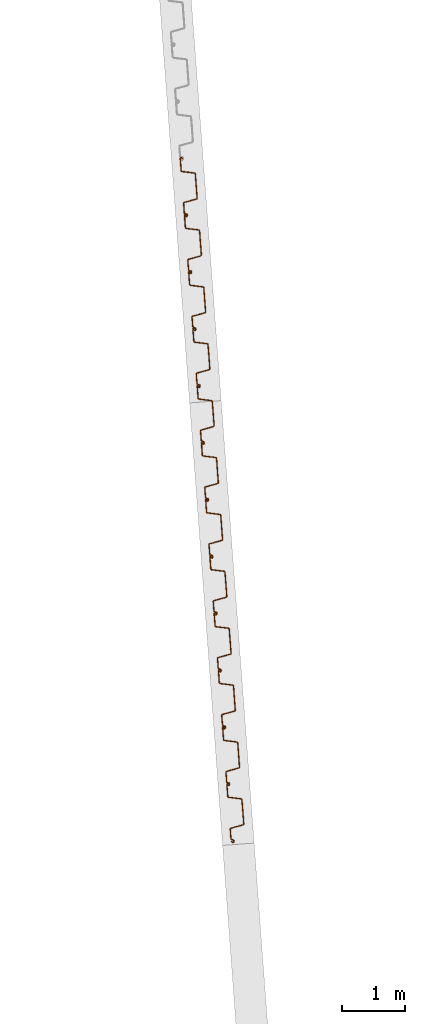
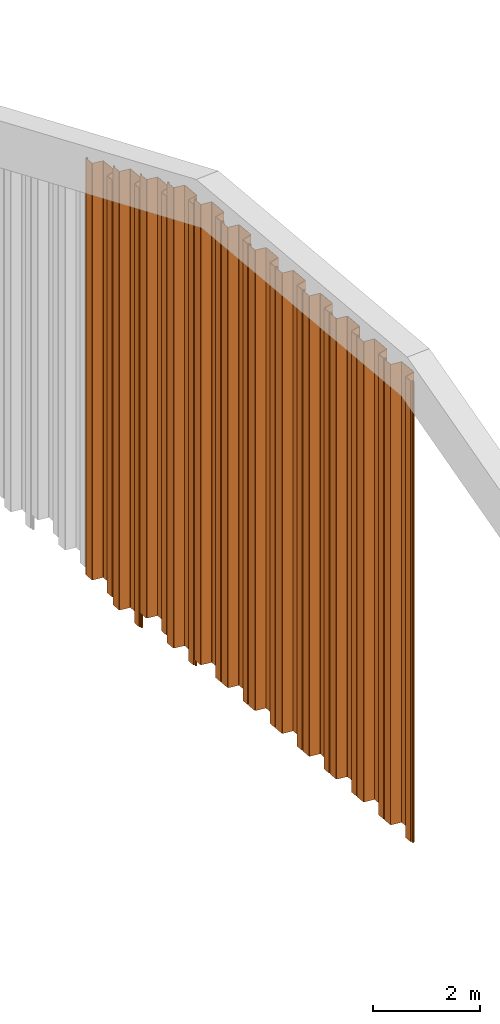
# One storey, part 3 of 15: 12 proxies.
"""IFC2X3 building model written with IfcOpenShell, lengths in millimetres."""

from ifc_helpers import new_model, entity, si_unit, converted_unit, derived_unit, direction, frame, frame_2d, origin, place, context, subcontext, project, spatial, polyline, circle_curve, parameter, trimmed, segment, composite_curve, outline, extrude, source, transform, mapped, material, type_object, type_shapes, element, save


model = new_model("IFC2X3")

# Units and contexts
model_context = context("Model", 3, precision=0.01, world=origin(), true_north=direction((6.12303176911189e-17, 1.0)))
body_context = subcontext(model_context, "Body", "Model", "MODEL_VIEW")
ifc_project = project(units=[si_unit("LENGTHUNIT", "METRE", prefix="MILLI"), si_unit("AREAUNIT", "SQUARE_METRE"), si_unit("VOLUMEUNIT", "CUBIC_METRE"), converted_unit("PLANEANGLEUNIT", "DEGREE", entity("IfcRatioMeasure", 0.0174532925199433), si_unit("PLANEANGLEUNIT", "RADIAN"), dimensions=[0, 0, 0, 0, 0, 0, 0]), si_unit("MASSUNIT", "GRAM", prefix="KILO"), derived_unit("MASSDENSITYUNIT", [(si_unit("MASSUNIT", "GRAM", prefix="KILO"), 1), (si_unit("LENGTHUNIT", "METRE"), -3)]), derived_unit("MOMENTOFINERTIAUNIT", [(si_unit("LENGTHUNIT", "METRE"), 4)]), si_unit("TIMEUNIT", "SECOND"), si_unit("FREQUENCYUNIT", "HERTZ"), si_unit("THERMODYNAMICTEMPERATUREUNIT", "DEGREE_CELSIUS"), derived_unit("THERMALTRANSMITTANCEUNIT", [(si_unit("MASSUNIT", "GRAM", prefix="KILO"), 1), (si_unit("THERMODYNAMICTEMPERATUREUNIT", "KELVIN"), -1), (si_unit("TIMEUNIT", "SECOND"), -3)]), derived_unit("VOLUMETRICFLOWRATEUNIT", [(si_unit("LENGTHUNIT", "METRE"), 3), (si_unit("TIMEUNIT", "SECOND"), -1)]), si_unit("ELECTRICCURRENTUNIT", "AMPERE"), si_unit("ELECTRICVOLTAGEUNIT", "VOLT"), si_unit("POWERUNIT", "WATT"), si_unit("FORCEUNIT", "NEWTON", prefix="KILO"), si_unit("ILLUMINANCEUNIT", "LUX"), si_unit("LUMINOUSFLUXUNIT", "LUMEN"), si_unit("LUMINOUSINTENSITYUNIT", "CANDELA"), derived_unit("USERDEFINED", [(si_unit("MASSUNIT", "GRAM", prefix="KILO"), -1), (si_unit("LENGTHUNIT", "METRE"), -2), (si_unit("TIMEUNIT", "SECOND"), 3), (si_unit("LUMINOUSFLUXUNIT", "LUMEN"), 1)]), derived_unit("LINEARVELOCITYUNIT", [(si_unit("LENGTHUNIT", "METRE"), 1), (si_unit("TIMEUNIT", "SECOND"), -1)]), si_unit("PRESSUREUNIT", "PASCAL"), derived_unit("USERDEFINED", [(si_unit("LENGTHUNIT", "METRE"), -2), (si_unit("MASSUNIT", "GRAM", prefix="KILO"), 1), (si_unit("TIMEUNIT", "SECOND"), -2)]), derived_unit("LINEARFORCEUNIT", [(si_unit("MASSUNIT", "GRAM", prefix="KILO"), 1), (si_unit("LENGTHUNIT", "METRE"), 1), (si_unit("TIMEUNIT", "SECOND"), -2), (si_unit("LENGTHUNIT", "METRE"), -1)]), derived_unit("PLANARFORCEUNIT", [(si_unit("MASSUNIT", "GRAM", prefix="KILO"), 1), (si_unit("LENGTHUNIT", "METRE"), 1), (si_unit("TIMEUNIT", "SECOND"), -2), (si_unit("LENGTHUNIT", "METRE"), -2)])], contexts=[model_context])

# Site, building, storey
site_placement = place(None, origin())
site = spatial("IfcSite", under=ifc_project, at=site_placement, Name="Default", CompositionType="ELEMENT")
building_placement = place(site_placement, origin())
building = spatial("IfcBuilding", under=site, at=building_placement, CompositionType="ELEMENT")
storey_placement = place(building_placement, frame((0.0, 0.0, 9500.0)))
storey = spatial("IfcBuildingStorey", under=building, at=storey_placement, Name="AP+9.500", CompositionType="ELEMENT", Elevation=9500.0)

# Proxies
ifc_material = material(Name="<Unnamed>")
building_element_proxy_type_1 = type_object("IfcBuildingElementProxyType", Name="鋼矢板10H型:鋼矢板10H型", PredefinedType="NOTDEFINED", material=ifc_material)
shared_shape_1 = source(origin(), body_context, "Body", "SweptSolid", [
    extrude(outline(composite_curve([segment(trimmed(circle_curve(frame_2d((85.3662976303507, 306.644432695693), x_axis=(0.422618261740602, 0.906307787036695)), 13.885714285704), [parameter(24.9999999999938)], [parameter(90.0000000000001)], True, "PARAMETER"), True, "CONTINUOUS"), segment(polyline([(72.7815666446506, 312.512789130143), (9.8129512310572, 177.476157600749)]), True, "CONTINUOUS"), segment(trimmed(circle_curve(frame_2d((29.3891994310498, 168.347603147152), x_axis=(0.422618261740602, 0.906307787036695)), 21.6), [parameter(90.0000000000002)], [parameter(168.69006752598)], True, "PARAMETER"), True, "CONTINUOUS"), segment(polyline([(16.598697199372, 150.941769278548), (175.329723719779, 34.2998683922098)]), True, "CONTINUOUS"), segment(trimmed(circle_curve(frame_2d((168.93447260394, 25.596951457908), x_axis=(0.422618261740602, 0.906307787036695)), 10.7999999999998), [parameter(270.0)], [parameter(348.690067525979)], True, "PARAMETER"), False, "CONTINUOUS"), segment(polyline([(178.722596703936, 21.0326742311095), (18.2974003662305, -323.000269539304)]), True, "CONTINUOUS"), segment(trimmed(circle_curve(frame_2d((8.50927626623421, -318.435992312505), x_axis=(0.422618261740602, 0.906307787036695)), 10.8), [parameter(191.30993247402)], [parameter(269.999999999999)], True, "PARAMETER"), False, "CONTINUOUS"), segment(polyline([(5.95324328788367, -328.929166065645), (-185.429973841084, -282.310113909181)]), True, "CONTINUOUS"), segment(trimmed(circle_curve(frame_2d((-190.542039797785, -303.296461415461), x_axis=(0.422618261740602, 0.906307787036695)), 21.6000000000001), [parameter(11.3099324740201)], [parameter(90.0000000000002)], True, "PARAMETER"), True, "CONTINUOUS"), segment(polyline([(-210.118287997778, -294.167906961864), (-290.330886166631, -466.184378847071)]), True, "CONTINUOUS"), segment(trimmed(circle_curve(frame_2d((-270.754637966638, -475.312933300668), x_axis=(0.422618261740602, 0.906307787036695)), 21.6), [parameter(90.0000000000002)], [parameter(269.999999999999)], True, "PARAMETER"), True, "CONTINUOUS"), segment(polyline([(-251.178389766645, -484.441487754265), (-249.065298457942, -479.909948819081)]), True, "CONTINUOUS"), segment(polyline([(-249.065298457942, -479.909948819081), (-258.853422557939, -475.345671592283)]), True, "CONTINUOUS"), segment(polyline([(-258.853422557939, -475.345671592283), (-260.966513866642, -479.877210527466)]), True, "CONTINUOUS"), segment(trimmed(circle_curve(frame_2d((-270.754637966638, -475.312933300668), x_axis=(0.422618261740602, 0.906307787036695)), 10.8), [parameter(90.0000000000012)], [parameter(270.0)], True, "PARAMETER"), False, "CONTINUOUS"), segment(polyline([(-280.542762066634, -470.748656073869), (-200.330163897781, -298.732184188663)]), True, "CONTINUOUS"), segment(trimmed(circle_curve(frame_2d((-190.542039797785, -303.296461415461), x_axis=(0.422618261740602, 0.906307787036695)), 10.8), [parameter(11.3099324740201)], [parameter(89.9999999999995)], True, "PARAMETER"), False, "CONTINUOUS"), segment(polyline([(-187.986006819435, -292.803287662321), (3.39721030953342, -339.422339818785)]), True, "CONTINUOUS"), segment(trimmed(circle_curve(frame_2d((8.50927626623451, -318.435992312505), x_axis=(0.422618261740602, 0.906307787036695)), 21.6), [parameter(191.30993247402)], [parameter(270.0)], True, "PARAMETER"), True, "CONTINUOUS"), segment(polyline([(28.0855244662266, -327.564546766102), (188.510720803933, 16.4683970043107)]), True, "CONTINUOUS"), segment(trimmed(circle_curve(frame_2d((168.93447260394, 25.5969514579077), x_axis=(0.422618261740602, 0.906307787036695)), 21.6), [parameter(270.0)], [parameter(348.69006752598)], True, "PARAMETER"), True, "CONTINUOUS"), segment(polyline([(181.724974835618, 43.0027853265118), (22.9939483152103, 159.644686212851)]), True, "CONTINUOUS"), segment(trimmed(circle_curve(frame_2d((29.3891994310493, 168.347603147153), x_axis=(0.422618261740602, 0.906307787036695)), 10.7999999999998), [parameter(89.9999999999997)], [parameter(168.690067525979)], True, "PARAMETER"), False, "CONTINUOUS"), segment(polyline([(19.6010753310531, 172.911880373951), (82.5696907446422, 307.948511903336)]), True, "CONTINUOUS"), segment(trimmed(circle_curve(frame_2d((85.3662976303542, 306.64443269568), x_axis=(0.422618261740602, 0.906307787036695)), 3.08571428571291), [parameter(25.0000000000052)], [parameter(90.0000000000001)], True, "PARAMETER"), False, "CONTINUOUS"), segment(polyline([(85.3662976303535, 309.730146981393), (122.220231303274, 309.730146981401)]), True, "CONTINUOUS"), segment(trimmed(circle_curve(frame_2d((122.220231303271, 323.615861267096), x_axis=(0.422618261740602, 0.906307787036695)), 13.8857142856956), [parameter(205.000000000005)], [parameter(270.0)], True, "PARAMETER"), True, "CONTINUOUS"), segment(polyline([(134.804962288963, 317.747504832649), (141.079261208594, 331.202782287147)]), True, "CONTINUOUS"), segment(trimmed(circle_curve(frame_2d((121.503013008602, 340.331336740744), x_axis=(0.422618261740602, 0.906307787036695)), 21.6), [parameter(270.0)], [parameter(90.0000000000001)], True, "PARAMETER"), True, "CONTINUOUS"), segment(polyline([(101.926764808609, 349.459891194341), (99.8136734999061, 344.928352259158)]), True, "CONTINUOUS"), segment(polyline([(99.8136734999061, 344.928352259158), (109.601797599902, 340.364075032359)]), True, "CONTINUOUS"), segment(polyline([(109.601797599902, 340.364075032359), (111.714888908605, 344.895613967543)]), True, "CONTINUOUS"), segment(trimmed(circle_curve(frame_2d((121.503013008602, 340.331336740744), x_axis=(0.422618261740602, 0.906307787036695)), 10.8), [parameter(270.0)], [parameter(89.9999999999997)], True, "PARAMETER"), False, "CONTINUOUS"), segment(polyline([(131.291137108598, 335.767059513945), (125.01683818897, 322.311782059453)]), True, "CONTINUOUS"), segment(trimmed(circle_curve(frame_2d((122.220231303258, 323.615861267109), x_axis=(0.422618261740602, 0.906307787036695)), 3.08571428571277), [parameter(204.999999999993)], [parameter(270.0)], True, "PARAMETER"), False, "CONTINUOUS"), segment(polyline([(122.220231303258, 320.530146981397), (85.3662976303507, 320.530146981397)]), True, "CONTINUOUS")], self_intersect=False)), frame((95.205667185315, -48.8888888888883, -9500.0), z_axis=(0.0, 0.0, -1.0), x_axis=(0.4226182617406, 0.906307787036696, 0.0)), (0.0, 0.0, -1.0), 9500.0),
])
type_shapes(building_element_proxy_type_1, [shared_shape_1])
proxy_placement = place(storey_placement, frame((-90463.7844282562, 7628.71299689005, 5515.47006997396), z_axis=(0.0, 0.0, 1.0), x_axis=(0.0743258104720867, -0.997234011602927, 0.0)))
element("IfcBuildingElementProxy", 1, at=proxy_placement, inside=storey, type_object=building_element_proxy_type_1, material=ifc_material, Name="鋼矢板10H型:鋼矢板10H型", ObjectType="鋼矢板10H型:鋼矢板10H型", context=body_context, shape_type="MappedRepresentation", body=[
    mapped(shared_shape_1, transform((0.0, 0.0, 0.0), scale=1.0)),
])
building_element_proxy_type_2 = type_object("IfcBuildingElementProxyType", Name="鋼矢板10H型:鋼矢板10H型", PredefinedType="NOTDEFINED", material=ifc_material)
shared_shape_2 = source(origin(), body_context, "Body", "SweptSolid", [
    extrude(outline(composite_curve([segment(trimmed(circle_curve(frame_2d((85.3662976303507, 306.644432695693), x_axis=(0.422618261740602, 0.906307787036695)), 13.885714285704), [parameter(24.9999999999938)], [parameter(90.0000000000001)], True, "PARAMETER"), True, "CONTINUOUS"), segment(polyline([(72.7815666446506, 312.512789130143), (9.8129512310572, 177.476157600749)]), True, "CONTINUOUS"), segment(trimmed(circle_curve(frame_2d((29.3891994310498, 168.347603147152), x_axis=(0.422618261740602, 0.906307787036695)), 21.6), [parameter(90.0000000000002)], [parameter(168.69006752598)], True, "PARAMETER"), True, "CONTINUOUS"), segment(polyline([(16.598697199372, 150.941769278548), (175.329723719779, 34.2998683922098)]), True, "CONTINUOUS"), segment(trimmed(circle_curve(frame_2d((168.93447260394, 25.596951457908), x_axis=(0.422618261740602, 0.906307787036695)), 10.7999999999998), [parameter(270.0)], [parameter(348.690067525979)], True, "PARAMETER"), False, "CONTINUOUS"), segment(polyline([(178.722596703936, 21.0326742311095), (18.2974003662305, -323.000269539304)]), True, "CONTINUOUS"), segment(trimmed(circle_curve(frame_2d((8.50927626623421, -318.435992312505), x_axis=(0.422618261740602, 0.906307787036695)), 10.8), [parameter(191.30993247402)], [parameter(269.999999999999)], True, "PARAMETER"), False, "CONTINUOUS"), segment(polyline([(5.95324328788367, -328.929166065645), (-185.429973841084, -282.310113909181)]), True, "CONTINUOUS"), segment(trimmed(circle_curve(frame_2d((-190.542039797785, -303.296461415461), x_axis=(0.422618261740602, 0.906307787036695)), 21.6000000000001), [parameter(11.3099324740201)], [parameter(90.0000000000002)], True, "PARAMETER"), True, "CONTINUOUS"), segment(polyline([(-210.118287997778, -294.167906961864), (-290.330886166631, -466.184378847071)]), True, "CONTINUOUS"), segment(trimmed(circle_curve(frame_2d((-270.754637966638, -475.312933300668), x_axis=(0.422618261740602, 0.906307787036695)), 21.6), [parameter(90.0000000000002)], [parameter(269.999999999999)], True, "PARAMETER"), True, "CONTINUOUS"), segment(polyline([(-251.178389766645, -484.441487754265), (-249.065298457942, -479.909948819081)]), True, "CONTINUOUS"), segment(polyline([(-249.065298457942, -479.909948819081), (-258.853422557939, -475.345671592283)]), True, "CONTINUOUS"), segment(polyline([(-258.853422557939, -475.345671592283), (-260.966513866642, -479.877210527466)]), True, "CONTINUOUS"), segment(trimmed(circle_curve(frame_2d((-270.754637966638, -475.312933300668), x_axis=(0.422618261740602, 0.906307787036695)), 10.8), [parameter(90.0000000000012)], [parameter(270.0)], True, "PARAMETER"), False, "CONTINUOUS"), segment(polyline([(-280.542762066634, -470.748656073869), (-200.330163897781, -298.732184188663)]), True, "CONTINUOUS"), segment(trimmed(circle_curve(frame_2d((-190.542039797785, -303.296461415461), x_axis=(0.422618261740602, 0.906307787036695)), 10.8), [parameter(11.3099324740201)], [parameter(89.9999999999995)], True, "PARAMETER"), False, "CONTINUOUS"), segment(polyline([(-187.986006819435, -292.803287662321), (3.39721030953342, -339.422339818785)]), True, "CONTINUOUS"), segment(trimmed(circle_curve(frame_2d((8.50927626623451, -318.435992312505), x_axis=(0.422618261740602, 0.906307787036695)), 21.6), [parameter(191.30993247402)], [parameter(270.0)], True, "PARAMETER"), True, "CONTINUOUS"), segment(polyline([(28.0855244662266, -327.564546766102), (188.510720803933, 16.4683970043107)]), True, "CONTINUOUS"), segment(trimmed(circle_curve(frame_2d((168.93447260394, 25.5969514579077), x_axis=(0.422618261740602, 0.906307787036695)), 21.6), [parameter(270.0)], [parameter(348.69006752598)], True, "PARAMETER"), True, "CONTINUOUS"), segment(polyline([(181.724974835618, 43.0027853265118), (22.9939483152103, 159.644686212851)]), True, "CONTINUOUS"), segment(trimmed(circle_curve(frame_2d((29.3891994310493, 168.347603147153), x_axis=(0.422618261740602, 0.906307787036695)), 10.7999999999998), [parameter(89.9999999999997)], [parameter(168.690067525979)], True, "PARAMETER"), False, "CONTINUOUS"), segment(polyline([(19.6010753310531, 172.911880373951), (82.5696907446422, 307.948511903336)]), True, "CONTINUOUS"), segment(trimmed(circle_curve(frame_2d((85.3662976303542, 306.64443269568), x_axis=(0.422618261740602, 0.906307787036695)), 3.08571428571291), [parameter(25.0000000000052)], [parameter(90.0000000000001)], True, "PARAMETER"), False, "CONTINUOUS"), segment(polyline([(85.3662976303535, 309.730146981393), (122.220231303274, 309.730146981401)]), True, "CONTINUOUS"), segment(trimmed(circle_curve(frame_2d((122.220231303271, 323.615861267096), x_axis=(0.422618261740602, 0.906307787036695)), 13.8857142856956), [parameter(205.000000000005)], [parameter(270.0)], True, "PARAMETER"), True, "CONTINUOUS"), segment(polyline([(134.804962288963, 317.747504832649), (141.079261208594, 331.202782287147)]), True, "CONTINUOUS"), segment(trimmed(circle_curve(frame_2d((121.503013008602, 340.331336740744), x_axis=(0.422618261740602, 0.906307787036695)), 21.6), [parameter(270.0)], [parameter(90.0000000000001)], True, "PARAMETER"), True, "CONTINUOUS"), segment(polyline([(101.926764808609, 349.459891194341), (99.8136734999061, 344.928352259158)]), True, "CONTINUOUS"), segment(polyline([(99.8136734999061, 344.928352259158), (109.601797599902, 340.364075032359)]), True, "CONTINUOUS"), segment(polyline([(109.601797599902, 340.364075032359), (111.714888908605, 344.895613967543)]), True, "CONTINUOUS"), segment(trimmed(circle_curve(frame_2d((121.503013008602, 340.331336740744), x_axis=(0.422618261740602, 0.906307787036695)), 10.8), [parameter(270.0)], [parameter(89.9999999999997)], True, "PARAMETER"), False, "CONTINUOUS"), segment(polyline([(131.291137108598, 335.767059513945), (125.01683818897, 322.311782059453)]), True, "CONTINUOUS"), segment(trimmed(circle_curve(frame_2d((122.220231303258, 323.615861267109), x_axis=(0.422618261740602, 0.906307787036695)), 3.08571428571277), [parameter(204.999999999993)], [parameter(270.0)], True, "PARAMETER"), False, "CONTINUOUS"), segment(polyline([(122.220231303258, 320.530146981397), (85.3662976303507, 320.530146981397)]), True, "CONTINUOUS")], self_intersect=False)), frame((95.205667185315, -48.8888888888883, -10000.0), z_axis=(0.0, 0.0, -1.0), x_axis=(0.4226182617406, 0.906307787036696, 0.0)), (0.0, 0.0, -1.0), 10000.0),
])
type_shapes(building_element_proxy_type_2, [shared_shape_2])
for number, where, z_axis, x_axis in (
    (2, (-90396.8911988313, 6731.20238644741, 5851.61409448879), (0.0, 0.0, 1.0), (0.0743258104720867, -0.997234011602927, 0.0)),
    (3, (-90329.9979694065, 5833.69177600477, 6187.75811900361), (0.0, 0.0, 1.0), (0.0743258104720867, -0.997234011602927, 0.0)),
):
    element("IfcBuildingElementProxy", number, at=place(storey_placement, frame(where, z_axis=z_axis, x_axis=x_axis)), inside=storey, type_object=building_element_proxy_type_2, material=ifc_material, Name="鋼矢板10H型:鋼矢板10H型", ObjectType="鋼矢板10H型:鋼矢板10H型", context=body_context, shape_type="MappedRepresentation", body=[
        mapped(shared_shape_2, transform((0.0, 0.0, 0.0), scale=1.0)),
    ])
building_element_proxy_type_3 = type_object("IfcBuildingElementProxyType", Name="鋼矢板10H型:鋼矢板10H型", PredefinedType="NOTDEFINED", material=ifc_material)
shared_shape_3 = source(origin(), body_context, "Body", "SweptSolid", [
    extrude(outline(composite_curve([segment(trimmed(circle_curve(frame_2d((85.3662976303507, 306.644432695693), x_axis=(0.422618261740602, 0.906307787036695)), 13.885714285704), [parameter(24.9999999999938)], [parameter(90.0000000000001)], True, "PARAMETER"), True, "CONTINUOUS"), segment(polyline([(72.7815666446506, 312.512789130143), (9.8129512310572, 177.476157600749)]), True, "CONTINUOUS"), segment(trimmed(circle_curve(frame_2d((29.3891994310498, 168.347603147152), x_axis=(0.422618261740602, 0.906307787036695)), 21.6), [parameter(90.0000000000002)], [parameter(168.69006752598)], True, "PARAMETER"), True, "CONTINUOUS"), segment(polyline([(16.598697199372, 150.941769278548), (175.329723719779, 34.2998683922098)]), True, "CONTINUOUS"), segment(trimmed(circle_curve(frame_2d((168.93447260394, 25.596951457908), x_axis=(0.422618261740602, 0.906307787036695)), 10.7999999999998), [parameter(270.0)], [parameter(348.690067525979)], True, "PARAMETER"), False, "CONTINUOUS"), segment(polyline([(178.722596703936, 21.0326742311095), (18.2974003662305, -323.000269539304)]), True, "CONTINUOUS"), segment(trimmed(circle_curve(frame_2d((8.50927626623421, -318.435992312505), x_axis=(0.422618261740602, 0.906307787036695)), 10.8), [parameter(191.30993247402)], [parameter(269.999999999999)], True, "PARAMETER"), False, "CONTINUOUS"), segment(polyline([(5.95324328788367, -328.929166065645), (-185.429973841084, -282.310113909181)]), True, "CONTINUOUS"), segment(trimmed(circle_curve(frame_2d((-190.542039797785, -303.296461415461), x_axis=(0.422618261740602, 0.906307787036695)), 21.6000000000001), [parameter(11.3099324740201)], [parameter(90.0000000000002)], True, "PARAMETER"), True, "CONTINUOUS"), segment(polyline([(-210.118287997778, -294.167906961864), (-290.330886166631, -466.184378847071)]), True, "CONTINUOUS"), segment(trimmed(circle_curve(frame_2d((-270.754637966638, -475.312933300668), x_axis=(0.422618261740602, 0.906307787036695)), 21.6), [parameter(90.0000000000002)], [parameter(269.999999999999)], True, "PARAMETER"), True, "CONTINUOUS"), segment(polyline([(-251.178389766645, -484.441487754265), (-249.065298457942, -479.909948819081)]), True, "CONTINUOUS"), segment(polyline([(-249.065298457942, -479.909948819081), (-258.853422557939, -475.345671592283)]), True, "CONTINUOUS"), segment(polyline([(-258.853422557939, -475.345671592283), (-260.966513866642, -479.877210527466)]), True, "CONTINUOUS"), segment(trimmed(circle_curve(frame_2d((-270.754637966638, -475.312933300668), x_axis=(0.422618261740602, 0.906307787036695)), 10.8), [parameter(90.0000000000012)], [parameter(270.0)], True, "PARAMETER"), False, "CONTINUOUS"), segment(polyline([(-280.542762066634, -470.748656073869), (-200.330163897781, -298.732184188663)]), True, "CONTINUOUS"), segment(trimmed(circle_curve(frame_2d((-190.542039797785, -303.296461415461), x_axis=(0.422618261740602, 0.906307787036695)), 10.8), [parameter(11.3099324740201)], [parameter(89.9999999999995)], True, "PARAMETER"), False, "CONTINUOUS"), segment(polyline([(-187.986006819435, -292.803287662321), (3.39721030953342, -339.422339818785)]), True, "CONTINUOUS"), segment(trimmed(circle_curve(frame_2d((8.50927626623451, -318.435992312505), x_axis=(0.422618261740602, 0.906307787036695)), 21.6), [parameter(191.30993247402)], [parameter(270.0)], True, "PARAMETER"), True, "CONTINUOUS"), segment(polyline([(28.0855244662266, -327.564546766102), (188.510720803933, 16.4683970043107)]), True, "CONTINUOUS"), segment(trimmed(circle_curve(frame_2d((168.93447260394, 25.5969514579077), x_axis=(0.422618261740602, 0.906307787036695)), 21.6), [parameter(270.0)], [parameter(348.69006752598)], True, "PARAMETER"), True, "CONTINUOUS"), segment(polyline([(181.724974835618, 43.0027853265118), (22.9939483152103, 159.644686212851)]), True, "CONTINUOUS"), segment(trimmed(circle_curve(frame_2d((29.3891994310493, 168.347603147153), x_axis=(0.422618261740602, 0.906307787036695)), 10.7999999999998), [parameter(89.9999999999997)], [parameter(168.690067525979)], True, "PARAMETER"), False, "CONTINUOUS"), segment(polyline([(19.6010753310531, 172.911880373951), (82.5696907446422, 307.948511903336)]), True, "CONTINUOUS"), segment(trimmed(circle_curve(frame_2d((85.3662976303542, 306.64443269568), x_axis=(0.422618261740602, 0.906307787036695)), 3.08571428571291), [parameter(25.0000000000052)], [parameter(90.0000000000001)], True, "PARAMETER"), False, "CONTINUOUS"), segment(polyline([(85.3662976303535, 309.730146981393), (122.220231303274, 309.730146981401)]), True, "CONTINUOUS"), segment(trimmed(circle_curve(frame_2d((122.220231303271, 323.615861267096), x_axis=(0.422618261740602, 0.906307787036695)), 13.8857142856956), [parameter(205.000000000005)], [parameter(270.0)], True, "PARAMETER"), True, "CONTINUOUS"), segment(polyline([(134.804962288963, 317.747504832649), (141.079261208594, 331.202782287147)]), True, "CONTINUOUS"), segment(trimmed(circle_curve(frame_2d((121.503013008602, 340.331336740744), x_axis=(0.422618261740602, 0.906307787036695)), 21.6), [parameter(270.0)], [parameter(90.0000000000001)], True, "PARAMETER"), True, "CONTINUOUS"), segment(polyline([(101.926764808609, 349.459891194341), (99.8136734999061, 344.928352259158)]), True, "CONTINUOUS"), segment(polyline([(99.8136734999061, 344.928352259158), (109.601797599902, 340.364075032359)]), True, "CONTINUOUS"), segment(polyline([(109.601797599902, 340.364075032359), (111.714888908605, 344.895613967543)]), True, "CONTINUOUS"), segment(trimmed(circle_curve(frame_2d((121.503013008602, 340.331336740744), x_axis=(0.422618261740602, 0.906307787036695)), 10.8), [parameter(270.0)], [parameter(89.9999999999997)], True, "PARAMETER"), False, "CONTINUOUS"), segment(polyline([(131.291137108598, 335.767059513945), (125.01683818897, 322.311782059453)]), True, "CONTINUOUS"), segment(trimmed(circle_curve(frame_2d((122.220231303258, 323.615861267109), x_axis=(0.422618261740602, 0.906307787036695)), 3.08571428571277), [parameter(204.999999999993)], [parameter(270.0)], True, "PARAMETER"), False, "CONTINUOUS"), segment(polyline([(122.220231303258, 320.530146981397), (85.3662976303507, 320.530146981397)]), True, "CONTINUOUS")], self_intersect=False)), frame((95.205667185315, -48.8888888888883, -10500.0), z_axis=(0.0, 0.0, -1.0), x_axis=(0.4226182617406, 0.906307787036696, 0.0)), (0.0, 0.0, -1.0), 10500.0),
])
type_shapes(building_element_proxy_type_3, [shared_shape_3])
for number, where, z_axis, x_axis in (
    (4, (-90263.1047399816, 4936.18116556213, 6523.90214351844), (0.0, 0.0, 1.0), (0.0743258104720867, -0.997234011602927, 0.0)),
    (5, (-90196.2115105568, 4038.67055511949, 6663.0), (0.0, 0.0, 1.0), (0.0743258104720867, -0.997234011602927, 0.0)),
    (6, (-90129.3182811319, 3141.15994467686, 6663.0), (0.0, 0.0, 1.0), (0.0743258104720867, -0.997234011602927, 0.0)),
    (7, (-90062.425051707, 2243.64933423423, 6663.0), (0.0, 0.0, 1.0), (0.0743258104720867, -0.997234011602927, 0.0)),
    (8, (-89995.5318222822, 1346.13872379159, 6663.0), (0.0, 0.0, 1.0), (0.0743258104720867, -0.997234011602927, 0.0)),
    (9, (-89928.6385928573, 448.628113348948, 6663.0), (0.0, 0.0, 1.0), (0.0743258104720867, -0.997234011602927, 0.0)),
    (10, (-89861.7453634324, -448.882497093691, 6663.0), (0.0, 0.0, 1.0), (0.0743258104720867, -0.997234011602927, 0.0)),
    (11, (-89794.8521340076, -1346.39310753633, 6663.0), (0.0, 0.0, 1.0), (0.0743258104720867, -0.997234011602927, 0.0)),
    (12, (-89727.9589045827, -2243.90371797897, 6663.0), (0.0, 0.0, 1.0), (0.0743258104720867, -0.997234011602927, 0.0)),
):
    element("IfcBuildingElementProxy", number, at=place(storey_placement, frame(where, z_axis=z_axis, x_axis=x_axis)), inside=storey, type_object=building_element_proxy_type_3, material=ifc_material, Name="鋼矢板10H型:鋼矢板10H型", ObjectType="鋼矢板10H型:鋼矢板10H型", context=body_context, shape_type="MappedRepresentation", body=[
        mapped(shared_shape_3, transform((0.0, 0.0, 0.0), scale=1.0)),
    ])

save(model, "model.ifc")
